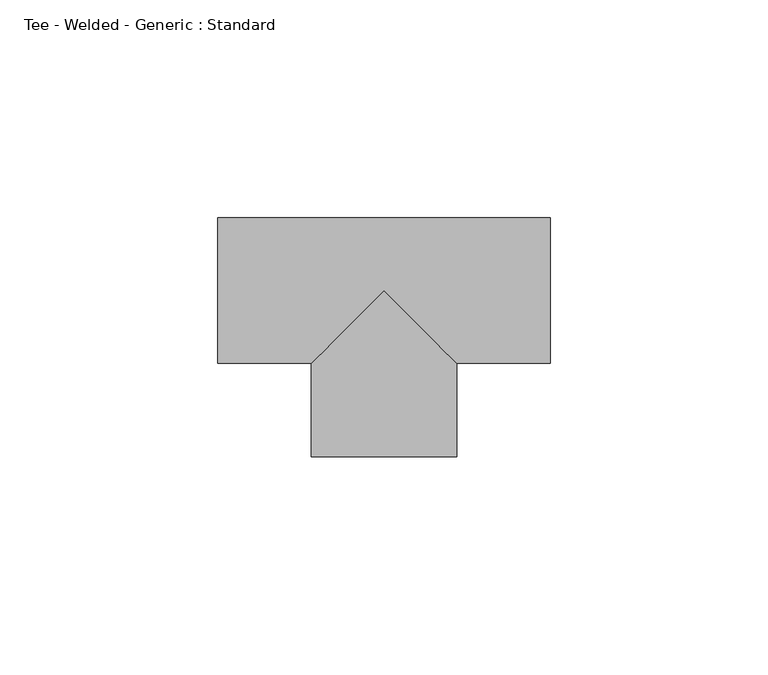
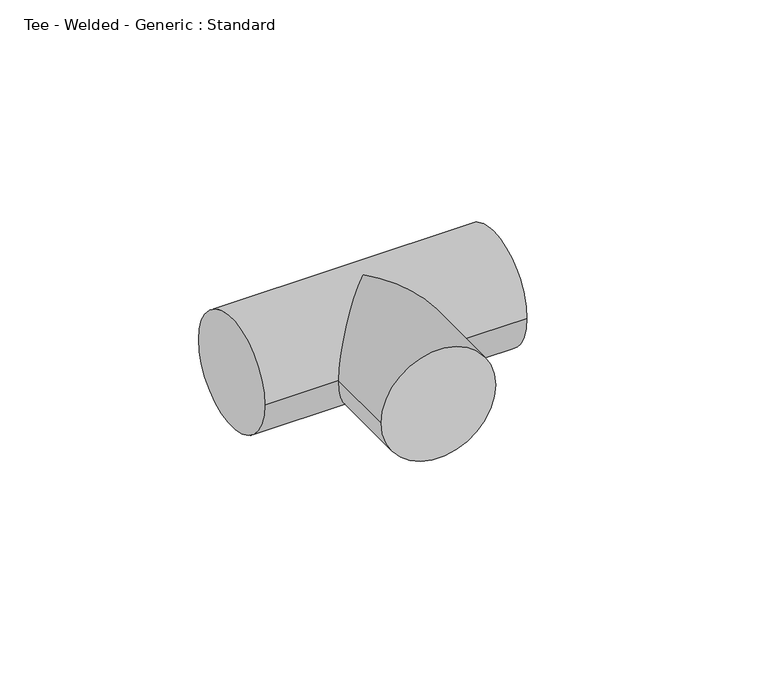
"""IFC4 building model written with IfcOpenShell, lengths in millimetres: pipe fitting geometry, Tee - Welded - Generic : Standard."""

from ifc_helpers import new_model, si_unit, frame, origin, place, context, project, spatial, circle_curve, ellipse_curve, source, transform, mapped, element, save
from ifc_brep_helpers import plane_surface, cylinder_surface, advanced_brep


def tee_welded_generic_standard_f42e751b(model_context):
    return source(origin(), model_context, "Body", "AdvancedBrep", [
        advanced_brep(
        [(-38.1, -16.66875, 0.0), (-38.1, 16.66875, 0.0), (38.1, -16.66875, 0.0), (38.1, 16.66875, 0.0), (-16.668749, -16.66875, 0.0), (0.0, 0.0, 16.66875), (16.668751, -16.66875, 0.0), (0.0, 0.0, -16.66875), (-16.6687478, -38.100001, 0.0), (16.6687522, -38.099999, 0.0)],
        [
            (0, 1, circle_curve(frame((-38.1, 0.0, 0.0), z_axis=(-1.0, 0.0, 0.0), x_axis=(0.0, 1.0, 0.0)), 16.66875)),
            (1, 0, circle_curve(frame((-38.1, 0.0, 0.0), z_axis=(-1.0, 0.0, 0.0), x_axis=(0.0, 1.0, 0.0)), 16.66875)),
            (2, 3, circle_curve(frame((38.1, 0.0, 0.0), z_axis=(1.0, 0.0, 0.0), x_axis=(0.0, 1.0, 0.0)), 16.66875)),
            (3, 2, circle_curve(frame((38.1, 0.0, 0.0), z_axis=(1.0, 0.0, 0.0), x_axis=(0.0, 1.0, 0.0)), 16.66875)),
            (0, 4),
            (4, 5, ellipse_curve(frame((0.0, 0.0, 0.0), z_axis=(-0.7071068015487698, 0.7071067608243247, 0.0), x_axis=(-0.7071067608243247, -0.7071068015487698, 0.0)), 23.5731716, 16.66875)),
            (5, 6, ellipse_curve(frame((0.0, 0.0, 0.0), z_axis=(0.7071067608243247, 0.7071068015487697, 0.0), x_axis=(-0.7071068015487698, 0.7071067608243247, 0.0)), 23.573173, 16.66875)),
            (6, 2),
            (3, 1),
            (6, 7, ellipse_curve(frame((0.0, 0.0, 0.0), z_axis=(0.7071067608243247, 0.7071068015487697, 0.0), x_axis=(-0.7071068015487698, 0.7071067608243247, 0.0)), 23.573173, 16.66875)),
            (7, 4, ellipse_curve(frame((0.0, 0.0, 0.0), z_axis=(-0.7071068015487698, 0.7071067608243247, 0.0), x_axis=(-0.7071067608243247, -0.7071068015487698, 0.0)), 23.5731716, 16.66875)),
            (8, 9, circle_curve(frame((2.2e-06, -38.1, 0.0), z_axis=(5.7593065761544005e-08, -0.9999999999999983, 0.0), x_axis=(0.9999999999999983, 5.7593065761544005e-08, 0.0)), 16.66875)),
            (9, 8, circle_curve(frame((2.2e-06, -38.1, 0.0), z_axis=(5.7593065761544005e-08, -0.9999999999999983, 0.0), x_axis=(0.9999999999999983, 5.7593065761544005e-08, 0.0)), 16.66875)),
            (9, 6),
            (4, 8),
        ],
        [
            plane_surface(frame((-38.1, 0.0, 0.0), z_axis=(-1.0, 0.0, 0.0), x_axis=(0.0, 0.0, 1.0))),
            plane_surface(frame((38.1, 0.0, 0.0), z_axis=(1.0, 0.0, 0.0), x_axis=(0.0, 0.0, 1.0))),
            cylinder_surface(frame((-38.1, 0.0, 0.0), z_axis=(-1.0, 0.0, 0.0), x_axis=(0.0, 1.0, 0.0)), 16.66875),
            plane_surface(frame((2.2e-06, -38.1, 0.0), z_axis=(5.7593065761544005e-08, -0.9999999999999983, 0.0), x_axis=(0.0, 0.0, 1.0))),
            cylinder_surface(frame((0.0, 0.0, 0.0), z_axis=(-5.7593065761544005e-08, 0.9999999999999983, 0.0), x_axis=(0.9999999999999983, 5.7593065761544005e-08, 0.0)), 16.66875),
        ],
        [
            (0, [[1, 2]]),
            (1, [[3, 4]]),
            (2, [[-1, 5, 6, 7, 8, -4, 9]]),
            (2, [[-2, -9, -3, -8, 10, 11, -5]]),
            (3, [[12, 13]]),
            (4, [[-13, 14, -7, -6, 15]]),
            (4, [[-12, -15, -11, -10, -14]]),
        ],
    ),
    ])


if __name__ == "__main__":
    model = new_model("IFC4")
    model_context = context("Model", 3, world=origin())
    ifc_project = project(units=[si_unit("LENGTHUNIT", "METRE", prefix="MILLI")], contexts=[model_context])
    site = spatial("IfcSite", under=ifc_project)
    building = spatial("IfcBuilding", under=site)
    placement = place(None, origin())
    tee_welded_generic_standard_shape = tee_welded_generic_standard_f42e751b(model_context)
    element("IfcPipeFitting", 1, ObjectType="Tee - Welded - Generic : Standard", at=placement, inside=building, context=model_context, shape_type="MappedRepresentation", body=[
        mapped(tee_welded_generic_standard_shape, transform((0.0, 0.0, 0.0), x_axis=(1.0, 0.0, 0.0), y_axis=(0.0, 1.0, 0.0), z_axis=(0.0, 0.0, 1.0))),
    ])
    save(model, "model.ifc")
